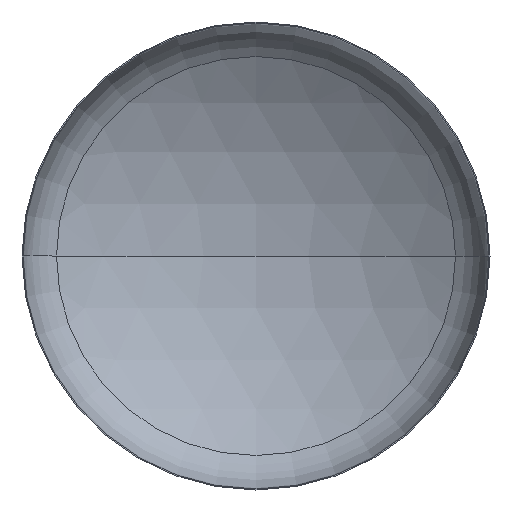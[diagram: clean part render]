
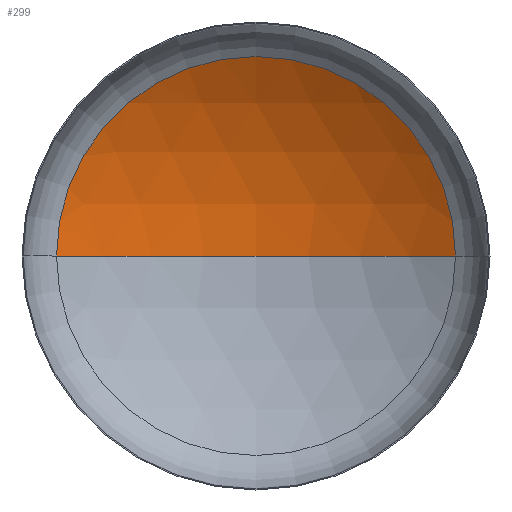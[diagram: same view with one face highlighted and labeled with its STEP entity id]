
A CAD part, front view. The second image highlights one B-rep face of the part: STEP entity #299.
In plain terms, the highlighted spherical face has radius 2560 mm.
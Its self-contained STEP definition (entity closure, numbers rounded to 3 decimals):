
#2 = ORIENTED_EDGE ( 'NONE', *, *, #277, .F. ) ;
#8 = EDGE_LOOP ( 'NONE', ( #2, #90, #47 ) ) ;
#23 = DIRECTION ( 'NONE',  ( 1., 0., 0. ) ) ;
#34 = VERTEX_POINT ( 'NONE', #305 ) ;
#47 = ORIENTED_EDGE ( 'NONE', *, *, #265, .T. ) ;
#71 = AXIS2_PLACEMENT_3D ( 'NONE', #402, #117, #121 ) ;
#86 = VERTEX_POINT ( 'NONE', #218 ) ;
#90 = ORIENTED_EDGE ( 'NONE', *, *, #271, .T. ) ;
#106 = VERTEX_POINT ( 'NONE', #249 ) ;
#117 = DIRECTION ( 'NONE',  ( 0., 0., -1. ) ) ;
#121 = DIRECTION ( 'NONE',  ( -1., 0., 0. ) ) ;
#134 = AXIS2_PLACEMENT_3D ( 'NONE', #274, #234, #231 ) ;
#140 = AXIS2_PLACEMENT_3D ( 'NONE', #144, #143, #23 ) ;
#143 = DIRECTION ( 'NONE',  ( 0., 0., 1. ) ) ;
#144 = CARTESIAN_POINT ( 'NONE',  ( 0., -1726.654, 0. ) ) ;
#147 = AXIS2_PLACEMENT_3D ( 'NONE', #187, #205, #198 ) ;
#165 = FACE_OUTER_BOUND ( 'NONE', #8, .T. ) ;
#182 = CIRCLE ( 'NONE', #140, 2560. ) ;
#187 = CARTESIAN_POINT ( 'NONE',  ( 0., 439.643, 0. ) ) ;
#198 = DIRECTION ( 'NONE',  ( 1., 0., 0. ) ) ;
#205 = DIRECTION ( 'NONE',  ( 0., -1., 0. ) ) ;
#218 = CARTESIAN_POINT ( 'NONE',  ( 0., 833.346, 0. ) ) ;
#231 = DIRECTION ( 'NONE',  ( -1., 0., 0. ) ) ;
#234 = DIRECTION ( 'NONE',  ( 0., 0., -1. ) ) ;
#249 = CARTESIAN_POINT ( 'NONE',  ( -1364.097, 439.643, 0. ) ) ;
#265 = EDGE_CURVE ( 'NONE', #34, #106, #383, .T. ) ;
#271 = EDGE_CURVE ( 'NONE', #86, #34, #376, .T. ) ;
#274 = CARTESIAN_POINT ( 'NONE',  ( 0., -1726.654, 0. ) ) ;
#277 = EDGE_CURVE ( 'NONE', #86, #106, #182, .T. ) ;
#299 = ADVANCED_FACE ( 'NONE', ( #165 ), #370, .F. ) ;
#305 = CARTESIAN_POINT ( 'NONE',  ( 1364.097, 439.643, 0. ) ) ;
#370 = SPHERICAL_SURFACE ( 'NONE', #71, 2560. ) ;
#376 = CIRCLE ( 'NONE', #134, 2560. ) ;
#383 = CIRCLE ( 'NONE', #147, 1364.097 ) ;
#402 = CARTESIAN_POINT ( 'NONE',  ( 0., -1726.654, 0. ) ) ;
